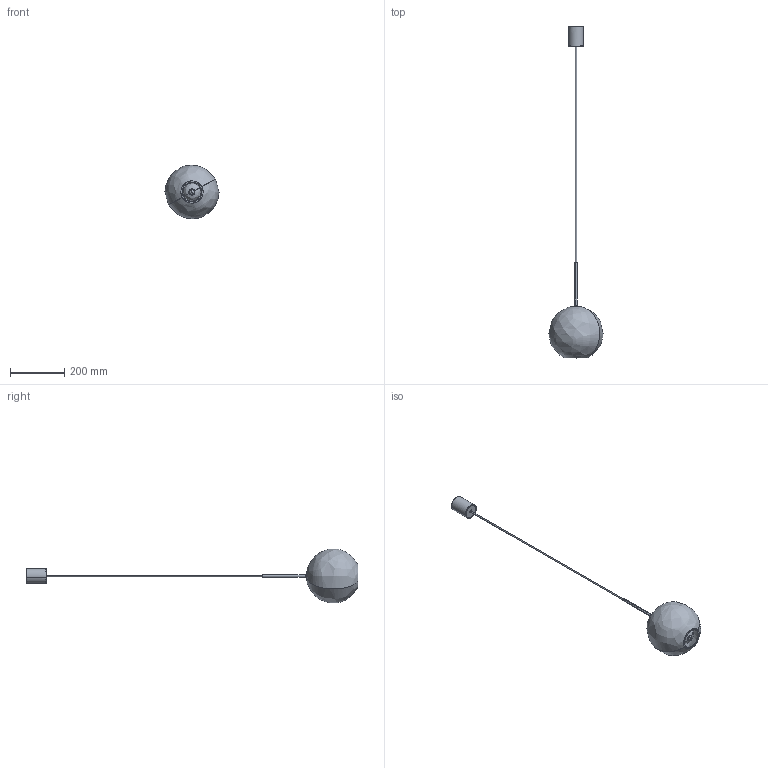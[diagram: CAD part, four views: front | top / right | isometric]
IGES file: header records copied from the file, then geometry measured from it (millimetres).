
Start section: SolidWorks IGES file using NURBS representation for surfaces
Global section: file name: Z:\Modele 3D_WWW\_KOLEKCJE_WWW\SPHERE\SPHERE-M-7848\SPHERE-M-7848.IGS; native system: SolidWorks 2021; preprocessor: SolidWorks 2021; author: gabriela.tworek; date: 210908.082930; units: millimetre
Bounding box: 199.95 x 1228.34 x 198.46 mm (x, y, z)
Surface area: 364085.7 mm2 (no closed solid volume)
Topology: 0 solids, 0 shells, 430 faces, 5680 edges, 5671 vertices
Faces by surface type: bspline 430
